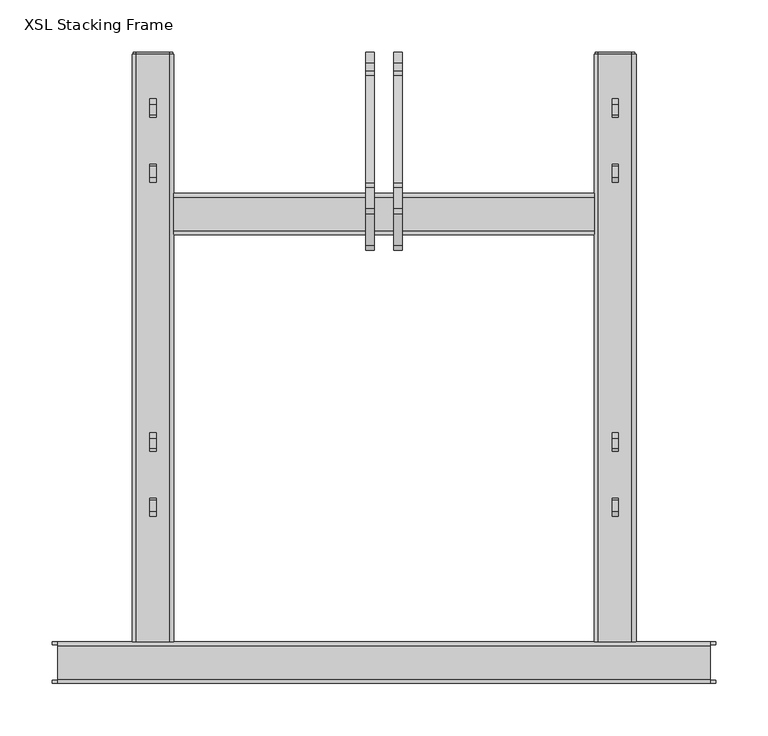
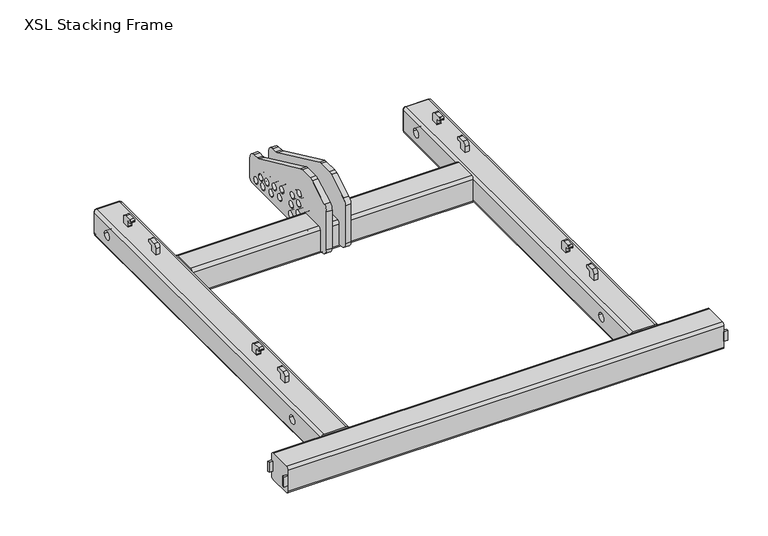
"""IFC4 building model written with IfcOpenShell, lengths in millimetres: proxy geometry, d&b SL-Series XSL Stacking Frame : XSL Stacking Frame."""

from ifc_helpers import new_model, si_unit, point, frame, frame_2d, origin, place, context, project, spatial, polyline, circle_curve, trimmed, segment, composite_curve, outline, extrude, source, transform, mapped, element, save
from ifc_brep_helpers import plane_surface, cylinder_surface, revolved_surface, advanced_brep


def xsl_stacking_frame_c5b48331(model_context):
    return source(origin(), model_context, "Body", "SolidModel", [
        extrude(outline(polyline([(312.5, 17.0), (312.5, 20.0), (318.0, 20.0), (318.0, 17.0), (312.5, 17.0)])), frame((0.0, 0.0, 22.5), z_axis=(0.0, 0.0, 1.0), x_axis=(1.0, 0.0, 0.0)), (0.0, 0.0, 1.0), 15.0),
        extrude(outline(polyline([(312.5, -20.0), (312.5, -17.0), (318.0, -17.0), (318.0, -20.0), (312.5, -20.0)])), frame((0.0, 0.0, 22.5), z_axis=(0.0, 0.0, 1.0), x_axis=(1.0, 0.0, 0.0)), (0.0, 0.0, 1.0), 15.0),
        extrude(outline(polyline([(-312.5, 20.0), (-312.5, 17.0), (-318.0, 17.0), (-318.0, 20.0), (-312.5, 20.0)])), frame((0.0, 0.0, 22.5), z_axis=(0.0, 0.0, 1.0), x_axis=(1.0, 0.0, 0.0)), (0.0, 0.0, 1.0), 15.0),
        extrude(outline(polyline([(-312.5, -17.0), (-312.5, -20.0), (-318.0, -20.0), (-318.0, -17.0), (-312.5, -17.0)])), frame((0.0, 0.0, 22.5), z_axis=(0.0, 0.0, 1.0), x_axis=(1.0, 0.0, 0.0)), (0.0, 0.0, 1.0), 15.0),
        extrude(outline(composite_curve([segment(polyline([(14.0, -202.5), (46.0, -202.5)]), True, "CONTINUOUS"), segment(trimmed(circle_curve(frame_2d((46.0, -205.5)), 3.0), [point((46.0, -202.5))], [point((49.0, -205.5))], False, "CARTESIAN"), True, "CONTINUOUS"), segment(polyline([(49.0, -205.5), (49.0, -237.5)]), True, "CONTINUOUS"), segment(trimmed(circle_curve(frame_2d((46.0, -237.5)), 3.0), [point((49.0, -237.5))], [point((46.0, -240.5))], False, "CARTESIAN"), True, "CONTINUOUS"), segment(polyline([(46.0, -240.5), (14.0, -240.5)]), True, "CONTINUOUS"), segment(trimmed(circle_curve(frame_2d((14.0, -237.5)), 3.0), [point((14.0, -240.5))], [point((11.0, -237.5))], False, "CARTESIAN"), True, "CONTINUOUS"), segment(polyline([(11.0, -237.5), (11.0, -205.5)]), True, "CONTINUOUS"), segment(trimmed(circle_curve(frame_2d((14.0, -205.5)), 3.0), [point((11.0, -205.5))], [point((14.0, -202.5))], False, "CARTESIAN"), True, "CONTINUOUS")], self_intersect=False)), frame((0.0, 583.0, 0.0), z_axis=(0.0, 1.0, 0.0), x_axis=(0.0, 0.0, 1.0)), (0.0, 0.0, 1.0), 2.0),
        extrude(outline(composite_curve([segment(trimmed(circle_curve(frame_2d((14.0, 205.5)), 3.0), [point((14.0, 202.5))], [point((11.0, 205.5))], False, "CARTESIAN"), True, "CONTINUOUS"), segment(polyline([(11.0, 205.5), (11.0, 237.5)]), True, "CONTINUOUS"), segment(trimmed(circle_curve(frame_2d((14.0, 237.5)), 3.0), [point((11.0, 237.5))], [point((14.0, 240.5))], False, "CARTESIAN"), True, "CONTINUOUS"), segment(polyline([(14.0, 240.5), (46.0, 240.5)]), True, "CONTINUOUS"), segment(trimmed(circle_curve(frame_2d((46.0, 237.5)), 3.0), [point((46.0, 240.5))], [point((49.0, 237.5))], False, "CARTESIAN"), True, "CONTINUOUS"), segment(polyline([(49.0, 237.5), (49.0, 205.5)]), True, "CONTINUOUS"), segment(trimmed(circle_curve(frame_2d((46.0, 205.5)), 3.0), [point((49.0, 205.5))], [point((46.0, 202.5))], False, "CARTESIAN"), True, "CONTINUOUS"), segment(polyline([(46.0, 202.5), (14.0, 202.5)]), True, "CONTINUOUS")], self_intersect=False)), frame((0.0, 583.0, 0.0), z_axis=(0.0, 1.0, 0.0), x_axis=(0.0, 0.0, 1.0)), (0.0, 0.0, 1.0), 2.0),
        advanced_brep(
        [(-201.5, 20.0, 14.0), (-201.5, 20.0, 46.0), (-205.5, 20.0, 50.0), (-237.5, 20.0, 50.0), (-241.5, 20.0, 46.0), (-241.5, 20.0, 14.0), (-237.5, 20.0, 10.0), (-205.5, 20.0, 10.0), (-201.5, 583.0, 14.0), (-205.5, 583.0, 10.0), (-237.5, 583.0, 10.0), (-241.5, 583.0, 14.0), (-241.5, 583.0, 46.0), (-237.5, 583.0, 50.0), (-205.5, 583.0, 50.0), (-201.5, 583.0, 46.0), (-201.5, 85.8, 30.0), (-201.5, 98.2, 30.0), (-201.5, 545.8, 30.0), (-201.5, 558.2, 30.0), (-241.5, 98.2, 30.0), (-241.5, 85.8, 30.0), (-241.5, 558.2, 30.0), (-241.5, 545.8, 30.0)],
        [
            (0, 1),
            (1, 2, circle_curve(frame((-205.5, 20.0, 46.0), z_axis=(0.0, -1.0, 0.0), x_axis=(-1.0, 0.0, 0.0)), 4.0)),
            (2, 3),
            (3, 4, circle_curve(frame((-237.5, 20.0, 46.0), z_axis=(0.0, -1.0, 0.0), x_axis=(-1.0, 0.0, 0.0)), 4.0)),
            (4, 5),
            (5, 6, circle_curve(frame((-237.5, 20.0, 14.0), z_axis=(0.0, -1.0, 0.0), x_axis=(-1.0, 0.0, 0.0)), 4.0)),
            (6, 7),
            (7, 0, circle_curve(frame((-205.5, 20.0, 14.0), z_axis=(0.0, -1.0, 0.0), x_axis=(-1.0, 0.0, 0.0)), 4.0)),
            (8, 9, circle_curve(frame((-205.5, 583.0, 14.0), z_axis=(0.0, 1.0, 0.0), x_axis=(-1.0, 0.0, 0.0)), 4.0)),
            (9, 10),
            (10, 11, circle_curve(frame((-237.5, 583.0, 14.0), z_axis=(0.0, 1.0, 0.0), x_axis=(-1.0, 0.0, 0.0)), 4.0)),
            (11, 12),
            (12, 13, circle_curve(frame((-237.5, 583.0, 46.0), z_axis=(0.0, 1.0, 0.0), x_axis=(-1.0, 0.0, 0.0)), 4.0)),
            (13, 14),
            (14, 15, circle_curve(frame((-205.5, 583.0, 46.0), z_axis=(0.0, 1.0, 0.0), x_axis=(-1.0, 0.0, 0.0)), 4.0)),
            (15, 8),
            (0, 8),
            (15, 1),
            (16, 17, circle_curve(frame((-201.5, 92.0, 30.0), z_axis=(-1.0, 0.0, 0.0), x_axis=(0.0, -1.0, 0.0)), 6.2)),
            (17, 16, circle_curve(frame((-201.5, 92.0, 30.0), z_axis=(-1.0, 0.0, 0.0), x_axis=(0.0, -1.0, 0.0)), 6.2)),
            (18, 19, circle_curve(frame((-201.5, 552.0, 30.0), z_axis=(-1.0, 0.0, 0.0), x_axis=(0.0, -1.0, 0.0)), 6.2)),
            (19, 18, circle_curve(frame((-201.5, 552.0, 30.0), z_axis=(-1.0, 0.0, 0.0), x_axis=(0.0, -1.0, 0.0)), 6.2)),
            (14, 2),
            (13, 3),
            (12, 4),
            (11, 5),
            (20, 21, circle_curve(frame((-241.5, 92.0, 30.0), z_axis=(1.0, 0.0, 0.0), x_axis=(0.0, -1.0, 0.0)), 6.2)),
            (21, 20, circle_curve(frame((-241.5, 92.0, 30.0), z_axis=(1.0, 0.0, 0.0), x_axis=(0.0, -1.0, 0.0)), 6.2)),
            (22, 23, circle_curve(frame((-241.5, 552.0, 30.0), z_axis=(1.0, 0.0, 0.0), x_axis=(0.0, -1.0, 0.0)), 6.2)),
            (23, 22, circle_curve(frame((-241.5, 552.0, 30.0), z_axis=(1.0, 0.0, 0.0), x_axis=(0.0, -1.0, 0.0)), 6.2)),
            (10, 6),
            (9, 7),
            (20, 17),
            (16, 21),
            (22, 19),
            (18, 23),
        ],
        [
            plane_surface(frame((-201.5, 20.0, 46.0), z_axis=(0.0, -1.0, 0.0), x_axis=(0.0, 0.0, 1.0))),
            plane_surface(frame((-201.5, 583.0, 46.0), z_axis=(0.0, 1.0, 0.0), x_axis=(0.0, 0.0, -1.0))),
            plane_surface(frame((-201.5, 20.0, 14.0), z_axis=(1.0, 0.0, 0.0), x_axis=(0.0, 1.0, 0.0))),
            cylinder_surface(frame((-205.5, 583.0, 46.0), z_axis=(0.0, -1.0, 0.0), x_axis=(-1.0, 0.0, 0.0)), 4.0),
            plane_surface(frame((-205.5, 20.0, 50.0), z_axis=(0.0, 0.0, 1.0), x_axis=(0.0, 1.0, 0.0))),
            cylinder_surface(frame((-237.5, 583.0, 46.0), z_axis=(0.0, -1.0, 0.0), x_axis=(-1.0, 0.0, 0.0)), 4.0),
            plane_surface(frame((-241.5, 20.0, 46.0), z_axis=(-1.0, 0.0, 0.0), x_axis=(0.0, 1.0, 0.0))),
            cylinder_surface(frame((-237.5, 583.0, 14.0), z_axis=(0.0, -1.0, 0.0), x_axis=(-1.0, 0.0, 0.0)), 4.0),
            plane_surface(frame((-237.5, 20.0, 10.0), z_axis=(0.0, 0.0, -1.0), x_axis=(0.0, 1.0, 0.0))),
            cylinder_surface(frame((-205.5, 583.0, 14.0), z_axis=(0.0, -1.0, 0.0), x_axis=(-1.0, 0.0, 0.0)), 4.0),
            revolved_surface(polyline([(-201.5, 85.8, 30.0), (-241.5, 85.8, 30.0)]), (-318.5, 92.0, 30.0), (1.0, 0.0, 0.0)),
            revolved_surface(polyline([(-201.5, 545.8, 30.0), (-241.5, 545.8, 30.0)]), (0.0, 552.0, 30.0), (1.0, 0.0, 0.0)),
        ],
        [
            (0, [[1, 2, 3, 4, 5, 6, 7, 8]]),
            (1, [[9, 10, 11, 12, 13, 14, 15, 16]]),
            (2, [[-1, 17, -16, 18], [19, 20], [21, 22]]),
            (3, [[-2, -18, -15, 23]]),
            (4, [[-3, -23, -14, 24]]),
            (5, [[-4, -24, -13, 25]]),
            (6, [[-5, -25, -12, 26], [27, 28], [29, 30]]),
            (7, [[-6, -26, -11, 31]]),
            (8, [[-7, -31, -10, 32]]),
            (9, [[-8, -32, -9, -17]]),
            (10, [[33, -19, 34, -27]]),
            (10, [[-33, -28, -34, -20]]),
            (11, [[35, -21, 36, -29]]),
            (11, [[-35, -30, -36, -22]]),
        ],
    ),
        advanced_brep(
        [(201.5, 20.0, 14.0), (205.5, 20.0, 10.0), (237.5, 20.0, 10.0), (241.5, 20.0, 14.0), (241.5, 20.0, 46.0), (237.5, 20.0, 50.0), (205.5, 20.0, 50.0), (201.5, 20.0, 46.0), (201.5, 583.0, 14.0), (201.5, 583.0, 46.0), (205.5, 583.0, 50.0), (237.5, 583.0, 50.0), (241.5, 583.0, 46.0), (241.5, 583.0, 14.0), (237.5, 583.0, 10.0), (205.5, 583.0, 10.0), (241.5, 85.8, 30.0), (241.5, 98.2, 30.0), (241.5, 545.8, 30.0), (241.5, 558.2, 30.0), (201.5, 98.2, 30.0), (201.5, 85.8, 30.0), (201.5, 558.2, 30.0), (201.5, 545.8, 30.0)],
        [
            (0, 1, circle_curve(frame((205.5, 20.0, 14.0), z_axis=(0.0, -1.0, 0.0), x_axis=(1.0, 0.0, 0.0)), 4.0)),
            (1, 2),
            (2, 3, circle_curve(frame((237.5, 20.0, 14.0), z_axis=(0.0, -1.0, 0.0), x_axis=(1.0, 0.0, 0.0)), 4.0)),
            (3, 4),
            (4, 5, circle_curve(frame((237.5, 20.0, 46.0), z_axis=(0.0, -1.0, 0.0), x_axis=(1.0, 0.0, 0.0)), 4.0)),
            (5, 6),
            (6, 7, circle_curve(frame((205.5, 20.0, 46.0), z_axis=(0.0, -1.0, 0.0), x_axis=(1.0, 0.0, 0.0)), 4.0)),
            (7, 0),
            (8, 9),
            (9, 10, circle_curve(frame((205.5, 583.0, 46.0), z_axis=(0.0, 1.0, 0.0), x_axis=(1.0, 0.0, 0.0)), 4.0)),
            (10, 11),
            (11, 12, circle_curve(frame((237.5, 583.0, 46.0), z_axis=(0.0, 1.0, 0.0), x_axis=(1.0, 0.0, 0.0)), 4.0)),
            (12, 13),
            (13, 14, circle_curve(frame((237.5, 583.0, 14.0), z_axis=(0.0, 1.0, 0.0), x_axis=(1.0, 0.0, 0.0)), 4.0)),
            (14, 15),
            (15, 8, circle_curve(frame((205.5, 583.0, 14.0), z_axis=(0.0, 1.0, 0.0), x_axis=(1.0, 0.0, 0.0)), 4.0)),
            (0, 8),
            (15, 1),
            (14, 2),
            (13, 3),
            (12, 4),
            (16, 17, circle_curve(frame((241.5, 92.0, 30.0), z_axis=(-1.0, 0.0, 0.0), x_axis=(0.0, -1.0, 0.0)), 6.2)),
            (17, 16, circle_curve(frame((241.5, 92.0, 30.0), z_axis=(-1.0, 0.0, 0.0), x_axis=(0.0, -1.0, 0.0)), 6.2)),
            (18, 19, circle_curve(frame((241.5, 552.0, 30.0), z_axis=(-1.0, 0.0, 0.0), x_axis=(0.0, -1.0, 0.0)), 6.2)),
            (19, 18, circle_curve(frame((241.5, 552.0, 30.0), z_axis=(-1.0, 0.0, 0.0), x_axis=(0.0, -1.0, 0.0)), 6.2)),
            (11, 5),
            (10, 6),
            (9, 7),
            (20, 21, circle_curve(frame((201.5, 92.0, 30.0), z_axis=(1.0, 0.0, 0.0), x_axis=(0.0, -1.0, 0.0)), 6.2)),
            (21, 20, circle_curve(frame((201.5, 92.0, 30.0), z_axis=(1.0, 0.0, 0.0), x_axis=(0.0, -1.0, 0.0)), 6.2)),
            (22, 23, circle_curve(frame((201.5, 552.0, 30.0), z_axis=(1.0, 0.0, 0.0), x_axis=(0.0, -1.0, 0.0)), 6.2)),
            (23, 22, circle_curve(frame((201.5, 552.0, 30.0), z_axis=(1.0, 0.0, 0.0), x_axis=(0.0, -1.0, 0.0)), 6.2)),
            (20, 17),
            (16, 21),
            (22, 19),
            (18, 23),
        ],
        [
            plane_surface(frame((-201.5, 20.0, 46.0), z_axis=(0.0, -1.0, 0.0), x_axis=(0.0, 0.0, 1.0))),
            plane_surface(frame((-201.5, 583.0, 46.0), z_axis=(0.0, 1.0, 0.0), x_axis=(0.0, 0.0, -1.0))),
            cylinder_surface(frame((205.5, 33.9954278, 14.0), z_axis=(0.0, -1.0, 0.0), x_axis=(1.0, 0.0, 0.0)), 4.0),
            plane_surface(frame((205.5, 20.0, 10.0), z_axis=(0.0, 0.0, -1.0), x_axis=(0.0, 1.0, 0.0))),
            cylinder_surface(frame((237.5, 33.9954278, 14.0), z_axis=(0.0, -1.0, 0.0), x_axis=(1.0, 0.0, 0.0)), 4.0),
            plane_surface(frame((241.5, 20.0, 14.0), z_axis=(1.0, 0.0, 0.0), x_axis=(0.0, 1.0, 0.0))),
            cylinder_surface(frame((237.5, 33.9954278, 46.0), z_axis=(0.0, -1.0, 0.0), x_axis=(1.0, 0.0, 0.0)), 4.0),
            plane_surface(frame((237.5, 20.0, 50.0), z_axis=(0.0, 0.0, 1.0), x_axis=(0.0, 1.0, 0.0))),
            cylinder_surface(frame((205.5, 33.9954278, 46.0), z_axis=(0.0, -1.0, 0.0), x_axis=(1.0, 0.0, 0.0)), 4.0),
            plane_surface(frame((201.5, 20.0, 46.0), z_axis=(-1.0, 0.0, 0.0), x_axis=(0.0, 1.0, 0.0))),
            revolved_surface(polyline([(241.5, 85.8, 30.0), (201.5, 85.8, 30.0)]), (-318.5, 92.0, 30.0), (1.0, 0.0, 0.0)),
            revolved_surface(polyline([(241.5, 545.8, 30.0), (201.5, 545.8, 30.0)]), (0.0, 552.0, 30.0), (1.0, 0.0, 0.0)),
        ],
        [
            (0, [[1, 2, 3, 4, 5, 6, 7, 8]]),
            (1, [[9, 10, 11, 12, 13, 14, 15, 16]]),
            (2, [[-1, 17, -16, 18]]),
            (3, [[-2, -18, -15, 19]]),
            (4, [[-3, -19, -14, 20]]),
            (5, [[-4, -20, -13, 21], [22, 23], [24, 25]]),
            (6, [[-5, -21, -12, 26]]),
            (7, [[-6, -26, -11, 27]]),
            (8, [[-7, -27, -10, 28]]),
            (9, [[-8, -28, -9, -17], [29, 30], [31, 32]]),
            (10, [[33, -22, 34, -29]]),
            (10, [[-33, -30, -34, -23]]),
            (11, [[35, -24, 36, -31]]),
            (11, [[-35, -32, -36, -25]]),
        ],
    ),
        extrude(outline(composite_curve([segment(polyline([(524.75, 64.5), (535.25, 64.5)]), True, "CONTINUOUS"), segment(trimmed(circle_curve(frame_2d((535.25, 59.5)), 5.0), [point((535.25, 64.5))], [point((540.25, 59.5))], False, "CARTESIAN"), True, "CONTINUOUS"), segment(polyline([(540.25, 59.5), (540.25, 50.0), (529.5728757, 50.0)]), True, "CONTINUOUS"), segment(trimmed(circle_curve(frame_2d((528.25, 51.5)), 2.0), [point((529.5728757, 50.0))], [point((530.25, 51.5))], True, "CARTESIAN"), True, "CONTINUOUS"), segment(polyline([(530.25, 51.5), (530.25, 57.5)]), True, "CONTINUOUS"), segment(trimmed(circle_curve(frame_2d((528.25, 57.5)), 2.0), [point((530.25, 57.5))], [point((528.25, 59.5))], True, "CARTESIAN"), True, "CONTINUOUS"), segment(polyline([(528.25, 59.5), (524.75, 59.5)]), True, "CONTINUOUS"), segment(trimmed(circle_curve(frame_2d((524.75, 61.5)), 2.0), [point((524.75, 59.5))], [point((522.75, 61.5))], False, "CARTESIAN"), True, "CONTINUOUS"), segment(polyline([(522.75, 61.5), (522.75, 62.5)]), True, "CONTINUOUS"), segment(trimmed(circle_curve(frame_2d((524.75, 62.5)), 2.0), [point((522.75, 62.5))], [point((524.75, 64.5))], False, "CARTESIAN"), True, "CONTINUOUS")], self_intersect=False)), frame((218.5, 0.0, 0.0), z_axis=(1.0, 0.0, 0.0), x_axis=(0.0, 1.0, 0.0)), (0.0, 0.0, 1.0), 6.0),
        extrude(outline(composite_curve([segment(trimmed(circle_curve(frame_2d((475.75, 62.5)), 2.0), [point((475.75, 64.5))], [point((477.75, 62.5))], False, "CARTESIAN"), True, "CONTINUOUS"), segment(polyline([(477.75, 62.5), (477.75, 61.5)]), True, "CONTINUOUS"), segment(trimmed(circle_curve(frame_2d((475.75, 61.5)), 2.0), [point((477.75, 61.5))], [point((475.75, 59.5))], False, "CARTESIAN"), True, "CONTINUOUS"), segment(polyline([(475.75, 59.5), (472.25, 59.5)]), True, "CONTINUOUS"), segment(trimmed(circle_curve(frame_2d((472.25, 57.5)), 2.0), [point((472.25, 59.5))], [point((470.25, 57.5))], True, "CARTESIAN"), True, "CONTINUOUS"), segment(polyline([(470.25, 57.5), (470.25, 51.5)]), True, "CONTINUOUS"), segment(trimmed(circle_curve(frame_2d((472.25, 51.5)), 2.0), [point((470.25, 51.5))], [point((470.9271243, 50.0))], True, "CARTESIAN"), True, "CONTINUOUS"), segment(polyline([(470.9271243, 50.0), (460.25, 50.0), (460.25, 59.5)]), True, "CONTINUOUS"), segment(trimmed(circle_curve(frame_2d((465.25, 59.5)), 5.0), [point((460.25, 59.5))], [point((465.25, 64.5))], False, "CARTESIAN"), True, "CONTINUOUS"), segment(polyline([(465.25, 64.5), (475.75, 64.5)]), True, "CONTINUOUS")], self_intersect=False)), frame((218.5, 0.0, 0.0), z_axis=(1.0, 0.0, 0.0), x_axis=(0.0, 1.0, 0.0)), (0.0, 0.0, 1.0), 6.0),
        extrude(outline(composite_curve([segment(polyline([(204.75, 64.5), (215.25, 64.5)]), True, "CONTINUOUS"), segment(trimmed(circle_curve(frame_2d((215.25, 59.5)), 5.0), [point((215.25, 64.5))], [point((220.25, 59.5))], False, "CARTESIAN"), True, "CONTINUOUS"), segment(polyline([(220.25, 59.5), (220.25, 50.0), (209.5728757, 50.0)]), True, "CONTINUOUS"), segment(trimmed(circle_curve(frame_2d((208.25, 51.5)), 2.0), [point((209.5728757, 50.0))], [point((210.25, 51.5))], True, "CARTESIAN"), True, "CONTINUOUS"), segment(polyline([(210.25, 51.5), (210.25, 57.5)]), True, "CONTINUOUS"), segment(trimmed(circle_curve(frame_2d((208.25, 57.5)), 2.0), [point((210.25, 57.5))], [point((208.25, 59.5))], True, "CARTESIAN"), True, "CONTINUOUS"), segment(polyline([(208.25, 59.5), (204.75, 59.5)]), True, "CONTINUOUS"), segment(trimmed(circle_curve(frame_2d((204.75, 61.5)), 2.0), [point((204.75, 59.5))], [point((202.75, 61.5))], False, "CARTESIAN"), True, "CONTINUOUS"), segment(polyline([(202.75, 61.5), (202.75, 62.5)]), True, "CONTINUOUS"), segment(trimmed(circle_curve(frame_2d((204.75, 62.5)), 2.0), [point((202.75, 62.5))], [point((204.75, 64.5))], False, "CARTESIAN"), True, "CONTINUOUS")], self_intersect=False)), frame((218.5, 0.0, 0.0), z_axis=(1.0, 0.0, 0.0), x_axis=(0.0, 1.0, 0.0)), (0.0, 0.0, 1.0), 6.0),
        extrude(outline(composite_curve([segment(trimmed(circle_curve(frame_2d((155.75, 62.5)), 2.0), [point((155.75, 64.5))], [point((157.75, 62.5))], False, "CARTESIAN"), True, "CONTINUOUS"), segment(polyline([(157.75, 62.5), (157.75, 61.5)]), True, "CONTINUOUS"), segment(trimmed(circle_curve(frame_2d((155.75, 61.5)), 2.0), [point((157.75, 61.5))], [point((155.75, 59.5))], False, "CARTESIAN"), True, "CONTINUOUS"), segment(polyline([(155.75, 59.5), (152.25, 59.5)]), True, "CONTINUOUS"), segment(trimmed(circle_curve(frame_2d((152.25, 57.5)), 2.0), [point((152.25, 59.5))], [point((150.25, 57.5))], True, "CARTESIAN"), True, "CONTINUOUS"), segment(polyline([(150.25, 57.5), (150.25, 51.5)]), True, "CONTINUOUS"), segment(trimmed(circle_curve(frame_2d((152.25, 51.5)), 2.0), [point((150.25, 51.5))], [point((150.9271243, 50.0))], True, "CARTESIAN"), True, "CONTINUOUS"), segment(polyline([(150.9271243, 50.0), (140.25, 50.0), (140.25, 59.5)]), True, "CONTINUOUS"), segment(trimmed(circle_curve(frame_2d((145.25, 59.5)), 5.0), [point((140.25, 59.5))], [point((145.25, 64.5))], False, "CARTESIAN"), True, "CONTINUOUS"), segment(polyline([(145.25, 64.5), (155.75, 64.5)]), True, "CONTINUOUS")], self_intersect=False)), frame((218.5, 0.0, 0.0), z_axis=(1.0, 0.0, 0.0), x_axis=(0.0, 1.0, 0.0)), (0.0, 0.0, 1.0), 6.0),
        extrude(outline(composite_curve([segment(polyline([(524.75, 64.5), (535.25, 64.5)]), True, "CONTINUOUS"), segment(trimmed(circle_curve(frame_2d((535.25, 59.5)), 5.0), [point((535.25, 64.5))], [point((540.25, 59.5))], False, "CARTESIAN"), True, "CONTINUOUS"), segment(polyline([(540.25, 59.5), (540.25, 50.0), (529.5728757, 50.0)]), True, "CONTINUOUS"), segment(trimmed(circle_curve(frame_2d((528.25, 51.5)), 2.0), [point((529.5728757, 50.0))], [point((530.25, 51.5))], True, "CARTESIAN"), True, "CONTINUOUS"), segment(polyline([(530.25, 51.5), (530.25, 57.5)]), True, "CONTINUOUS"), segment(trimmed(circle_curve(frame_2d((528.25, 57.5)), 2.0), [point((530.25, 57.5))], [point((528.25, 59.5))], True, "CARTESIAN"), True, "CONTINUOUS"), segment(polyline([(528.25, 59.5), (524.75, 59.5)]), True, "CONTINUOUS"), segment(trimmed(circle_curve(frame_2d((524.75, 61.5)), 2.0), [point((524.75, 59.5))], [point((522.75, 61.5))], False, "CARTESIAN"), True, "CONTINUOUS"), segment(polyline([(522.75, 61.5), (522.75, 62.5)]), True, "CONTINUOUS"), segment(trimmed(circle_curve(frame_2d((524.75, 62.5)), 2.0), [point((522.75, 62.5))], [point((524.75, 64.5))], False, "CARTESIAN"), True, "CONTINUOUS")], self_intersect=False)), frame((-224.5, 0.0, 0.0), z_axis=(1.0, 0.0, 0.0), x_axis=(0.0, 1.0, 0.0)), (0.0, 0.0, 1.0), 6.0),
        extrude(outline(composite_curve([segment(trimmed(circle_curve(frame_2d((475.75, 62.5)), 2.0), [point((475.75, 64.5))], [point((477.75, 62.5))], False, "CARTESIAN"), True, "CONTINUOUS"), segment(polyline([(477.75, 62.5), (477.75, 61.5)]), True, "CONTINUOUS"), segment(trimmed(circle_curve(frame_2d((475.75, 61.5)), 2.0), [point((477.75, 61.5))], [point((475.75, 59.5))], False, "CARTESIAN"), True, "CONTINUOUS"), segment(polyline([(475.75, 59.5), (472.25, 59.5)]), True, "CONTINUOUS"), segment(trimmed(circle_curve(frame_2d((472.25, 57.5)), 2.0), [point((472.25, 59.5))], [point((470.25, 57.5))], True, "CARTESIAN"), True, "CONTINUOUS"), segment(polyline([(470.25, 57.5), (470.25, 51.5)]), True, "CONTINUOUS"), segment(trimmed(circle_curve(frame_2d((472.25, 51.5)), 2.0), [point((470.25, 51.5))], [point((470.9271243, 50.0))], True, "CARTESIAN"), True, "CONTINUOUS"), segment(polyline([(470.9271243, 50.0), (460.25, 50.0), (460.25, 59.5)]), True, "CONTINUOUS"), segment(trimmed(circle_curve(frame_2d((465.25, 59.5)), 5.0), [point((460.25, 59.5))], [point((465.25, 64.5))], False, "CARTESIAN"), True, "CONTINUOUS"), segment(polyline([(465.25, 64.5), (475.75, 64.5)]), True, "CONTINUOUS")], self_intersect=False)), frame((-224.5, 0.0, 0.0), z_axis=(1.0, 0.0, 0.0), x_axis=(0.0, 1.0, 0.0)), (0.0, 0.0, 1.0), 6.0),
        extrude(outline(composite_curve([segment(polyline([(204.75, 64.5), (215.25, 64.5)]), True, "CONTINUOUS"), segment(trimmed(circle_curve(frame_2d((215.25, 59.5)), 5.0), [point((215.25, 64.5))], [point((220.25, 59.5))], False, "CARTESIAN"), True, "CONTINUOUS"), segment(polyline([(220.25, 59.5), (220.25, 50.0), (209.5728757, 50.0)]), True, "CONTINUOUS"), segment(trimmed(circle_curve(frame_2d((208.25, 51.5)), 2.0), [point((209.5728757, 50.0))], [point((210.25, 51.5))], True, "CARTESIAN"), True, "CONTINUOUS"), segment(polyline([(210.25, 51.5), (210.25, 57.5)]), True, "CONTINUOUS"), segment(trimmed(circle_curve(frame_2d((208.25, 57.5)), 2.0), [point((210.25, 57.5))], [point((208.25, 59.5))], True, "CARTESIAN"), True, "CONTINUOUS"), segment(polyline([(208.25, 59.5), (204.75, 59.5)]), True, "CONTINUOUS"), segment(trimmed(circle_curve(frame_2d((204.75, 61.5)), 2.0), [point((204.75, 59.5))], [point((202.75, 61.5))], False, "CARTESIAN"), True, "CONTINUOUS"), segment(polyline([(202.75, 61.5), (202.75, 62.5)]), True, "CONTINUOUS"), segment(trimmed(circle_curve(frame_2d((204.75, 62.5)), 2.0), [point((202.75, 62.5))], [point((204.75, 64.5))], False, "CARTESIAN"), True, "CONTINUOUS")], self_intersect=False)), frame((-224.5, 0.0, 0.0), z_axis=(1.0, 0.0, 0.0), x_axis=(0.0, 1.0, 0.0)), (0.0, 0.0, 1.0), 6.0),
        extrude(outline(composite_curve([segment(trimmed(circle_curve(frame_2d((155.75, 62.5)), 2.0), [point((155.75, 64.5))], [point((157.75, 62.5))], False, "CARTESIAN"), True, "CONTINUOUS"), segment(polyline([(157.75, 62.5), (157.75, 61.5)]), True, "CONTINUOUS"), segment(trimmed(circle_curve(frame_2d((155.75, 61.5)), 2.0), [point((157.75, 61.5))], [point((155.75, 59.5))], False, "CARTESIAN"), True, "CONTINUOUS"), segment(polyline([(155.75, 59.5), (152.25, 59.5)]), True, "CONTINUOUS"), segment(trimmed(circle_curve(frame_2d((152.25, 57.5)), 2.0), [point((152.25, 59.5))], [point((150.25, 57.5))], True, "CARTESIAN"), True, "CONTINUOUS"), segment(polyline([(150.25, 57.5), (150.25, 51.5)]), True, "CONTINUOUS"), segment(trimmed(circle_curve(frame_2d((152.25, 51.5)), 2.0), [point((150.25, 51.5))], [point((150.9271243, 50.0))], True, "CARTESIAN"), True, "CONTINUOUS"), segment(polyline([(150.9271243, 50.0), (140.25, 50.0), (140.25, 59.5)]), True, "CONTINUOUS"), segment(trimmed(circle_curve(frame_2d((145.25, 59.5)), 5.0), [point((140.25, 59.5))], [point((145.25, 64.5))], False, "CARTESIAN"), True, "CONTINUOUS"), segment(polyline([(145.25, 64.5), (155.75, 64.5)]), True, "CONTINUOUS")], self_intersect=False)), frame((-224.5, 0.0, 0.0), z_axis=(1.0, 0.0, 0.0), x_axis=(0.0, 1.0, 0.0)), (0.0, 0.0, 1.0), 6.0),
        extrude(outline(composite_curve([segment(polyline([(435.0, 110.0), (455.5577073, 110.0)]), True, "CONTINUOUS"), segment(trimmed(circle_curve(frame_2d((455.5577073, 100.0)), 10.0), [point((455.5577073, 110.0))], [point((459.78389, 109.0630779))], False, "CARTESIAN"), True, "CONTINUOUS"), segment(polyline([(459.78389, 109.0630779), (562.990764, 60.9369221)]), True, "CONTINUOUS"), segment(trimmed(circle_curve(frame_2d((567.2169466, 70.0)), 10.0), [point((562.990764, 60.9369221))], [point((567.2169466, 60.0))], True, "CARTESIAN"), True, "CONTINUOUS"), segment(polyline([(567.2169466, 60.0), (575.0, 60.0)]), True, "CONTINUOUS"), segment(trimmed(circle_curve(frame_2d((575.0, 50.0)), 10.0), [point((575.0, 60.0))], [point((585.0, 50.0))], False, "CARTESIAN"), True, "CONTINUOUS"), segment(polyline([(585.0, 50.0), (585.0, 20.0)]), True, "CONTINUOUS"), segment(trimmed(circle_curve(frame_2d((580.0, 20.0)), 5.0), [point((585.0, 20.0))], [point((580.0, 15.0))], False, "CARTESIAN"), True, "CONTINUOUS"), segment(polyline([(580.0, 15.0), (456.0, 15.0)]), True, "CONTINUOUS"), segment(trimmed(circle_curve(frame_2d((456.0, 20.0)), 5.0), [point((456.0, 15.0))], [point((451.0, 20.0))], False, "CARTESIAN"), True, "CONTINUOUS"), segment(polyline([(451.0, 20.0), (451.0, 45.0)]), True, "CONTINUOUS"), segment(trimmed(circle_curve(frame_2d((446.0, 45.0)), 5.0), [point((451.0, 45.0))], [point((446.0, 50.0))], True, "CARTESIAN"), True, "CONTINUOUS"), segment(polyline([(446.0, 50.0), (413.0, 50.0)]), True, "CONTINUOUS"), segment(trimmed(circle_curve(frame_2d((413.0, 47.0)), 3.0), [point((413.0, 50.0))], [point((410.0, 47.0))], True, "CARTESIAN"), True, "CONTINUOUS"), segment(polyline([(410.0, 47.0), (410.0, 15.0), (405.0, 15.0)]), True, "CONTINUOUS"), segment(trimmed(circle_curve(frame_2d((405.0, 25.0)), 10.0), [point((405.0, 15.0))], [point((395.0, 25.0))], False, "CARTESIAN"), True, "CONTINUOUS"), segment(polyline([(395.0, 25.0), (395.0, 82.6794919)]), True, "CONTINUOUS"), segment(trimmed(circle_curve(frame_2d((405.0, 82.6794919)), 10.0), [point((395.0, 82.6794919))], [point((400.0, 91.339746))], False, "CARTESIAN"), True, "CONTINUOUS"), segment(polyline([(400.0, 91.339746), (430.0, 108.660254)]), True, "CONTINUOUS"), segment(trimmed(circle_curve(frame_2d((435.0, 100.0)), 10.0), [point((430.0, 108.660254))], [point((435.0, 110.0))], False, "CARTESIAN"), True, "CONTINUOUS")], self_intersect=False), holes=[composite_curve([segment(trimmed(circle_curve(frame_2d((462.6389754, 69.2394944)), 5.0), [point((462.6389754, 64.2394944))], [point((462.6389754, 74.2394944))], True, "CARTESIAN"), True, "CONTINUOUS"), segment(trimmed(circle_curve(frame_2d((462.6389754, 69.2394944)), 5.0), [point((462.6389754, 74.2394944))], [point((462.6389754, 64.2394944))], True, "CARTESIAN"), True, "CONTINUOUS")], self_intersect=False), composite_curve([segment(trimmed(circle_curve(frame_2d((464.0844745, 53.2172111)), 5.0), [point((464.0844745, 48.2172111))], [point((464.0844745, 58.2172111))], True, "CARTESIAN"), True, "CONTINUOUS"), segment(trimmed(circle_curve(frame_2d((464.0844745, 53.2172111)), 5.0), [point((464.0844745, 58.2172111))], [point((464.0844745, 48.2172111))], True, "CARTESIAN"), True, "CONTINUOUS")], self_intersect=False), composite_curve([segment(trimmed(circle_curve(frame_2d((465.5299736, 37.1949278)), 5.0), [point((465.5299736, 32.1949278))], [point((465.5299736, 42.1949278))], True, "CARTESIAN"), True, "CONTINUOUS"), segment(trimmed(circle_curve(frame_2d((465.5299736, 37.1949278)), 5.0), [point((465.5299736, 42.1949278))], [point((465.5299736, 32.1949278))], True, "CARTESIAN"), True, "CONTINUOUS")], self_intersect=False), composite_curve([segment(trimmed(circle_curve(frame_2d((484.0131821, 24.5440695)), 5.0), [point((484.0131821, 19.5440695))], [point((484.0131821, 29.5440695))], True, "CARTESIAN"), True, "CONTINUOUS"), segment(trimmed(circle_curve(frame_2d((484.0131821, 24.5440695)), 5.0), [point((484.0131821, 29.5440695))], [point((484.0131821, 19.5440695))], True, "CARTESIAN"), True, "CONTINUOUS")], self_intersect=False), composite_curve([segment(trimmed(circle_curve(frame_2d((479.5590714, 56.3698741)), 5.0), [point((479.5590714, 51.3698741))], [point((479.5590714, 61.3698741))], True, "CARTESIAN"), True, "CONTINUOUS"), segment(trimmed(circle_curve(frame_2d((479.5590714, 56.3698741)), 5.0), [point((479.5590714, 61.3698741))], [point((479.5590714, 51.3698741))], True, "CARTESIAN"), True, "CONTINUOUS")], self_intersect=False), composite_curve([segment(trimmed(circle_curve(frame_2d((511.3866322, 33.7179139)), 5.0), [point((511.3866322, 28.7179139))], [point((511.3866322, 38.7179139))], True, "CARTESIAN"), True, "CONTINUOUS"), segment(trimmed(circle_curve(frame_2d((511.3866322, 33.7179139)), 5.0), [point((511.3866322, 38.7179139))], [point((511.3866322, 28.7179139))], True, "CARTESIAN"), True, "CONTINUOUS")], self_intersect=False), composite_curve([segment(trimmed(circle_curve(frame_2d((524.6112426, 41.6973982)), 5.0), [point((524.6112426, 36.6973982))], [point((524.6112426, 46.6973982))], True, "CARTESIAN"), True, "CONTINUOUS"), segment(trimmed(circle_curve(frame_2d((524.6112426, 41.6973982)), 5.0), [point((524.6112426, 46.6973982))], [point((524.6112426, 36.6973982))], True, "CARTESIAN"), True, "CONTINUOUS")], self_intersect=False), composite_curve([segment(trimmed(circle_curve(frame_2d((532.3897254, 27.6155576)), 5.0), [point((532.3897254, 22.6155576))], [point((532.3897254, 32.6155576))], True, "CARTESIAN"), True, "CONTINUOUS"), segment(trimmed(circle_curve(frame_2d((532.3897254, 27.6155576)), 5.0), [point((532.3897254, 32.6155576))], [point((532.3897254, 22.6155576))], True, "CARTESIAN"), True, "CONTINUOUS")], self_intersect=False), composite_curve([segment(trimmed(circle_curve(frame_2d((552.7934665, 25.0)), 5.0), [point((552.7934665, 20.0))], [point((552.7934665, 30.0))], True, "CARTESIAN"), True, "CONTINUOUS"), segment(trimmed(circle_curve(frame_2d((552.7934665, 25.0)), 5.0), [point((552.7934665, 30.0))], [point((552.7934665, 20.0))], True, "CARTESIAN"), True, "CONTINUOUS")], self_intersect=False), composite_curve([segment(trimmed(circle_curve(frame_2d((569.9805338, 24.259459)), 5.0), [point((569.9805338, 19.259459))], [point((569.9805338, 29.259459))], True, "CARTESIAN"), True, "CONTINUOUS"), segment(trimmed(circle_curve(frame_2d((569.9805338, 24.259459)), 5.0), [point((569.9805338, 29.259459))], [point((569.9805338, 19.259459))], True, "CARTESIAN"), True, "CONTINUOUS")], self_intersect=False), composite_curve([segment(trimmed(circle_curve(frame_2d((558.451496, 35.4792771)), 5.0), [point((558.451496, 30.4792771))], [point((558.451496, 40.4792771))], True, "CARTESIAN"), True, "CONTINUOUS"), segment(trimmed(circle_curve(frame_2d((558.451496, 35.4792771)), 5.0), [point((558.451496, 40.4792771))], [point((558.451496, 30.4792771))], True, "CARTESIAN"), True, "CONTINUOUS")], self_intersect=False), composite_curve([segment(trimmed(circle_curve(frame_2d((543.0021949, 37.7645615)), 5.0), [point((543.0021949, 32.7645615))], [point((543.0021949, 42.7645615))], True, "CARTESIAN"), True, "CONTINUOUS"), segment(trimmed(circle_curve(frame_2d((543.0021949, 37.7645615)), 5.0), [point((543.0021949, 42.7645615))], [point((543.0021949, 32.7645615))], True, "CARTESIAN"), True, "CONTINUOUS")], self_intersect=False), composite_curve([segment(trimmed(circle_curve(frame_2d((482.567683, 40.5663528)), 5.0), [point((482.567683, 35.5663528))], [point((482.567683, 45.5663528))], True, "CARTESIAN"), True, "CONTINUOUS"), segment(trimmed(circle_curve(frame_2d((482.567683, 40.5663528)), 5.0), [point((482.567683, 45.5663528))], [point((482.567683, 35.5663528))], True, "CARTESIAN"), True, "CONTINUOUS")], self_intersect=False), composite_curve([segment(trimmed(circle_curve(frame_2d((505.6036212, 48.7299029)), 5.0), [point((505.6036212, 43.7299029))], [point((505.6036212, 53.7299029))], True, "CARTESIAN"), True, "CONTINUOUS"), segment(trimmed(circle_curve(frame_2d((505.6036212, 48.7299029)), 5.0), [point((505.6036212, 53.7299029))], [point((505.6036212, 43.7299029))], True, "CARTESIAN"), True, "CONTINUOUS")], self_intersect=False)]), frame((-17.5, 0.0, 0.0), z_axis=(1.0, 0.0, 0.0), x_axis=(0.0, 1.0, 0.0)), (0.0, 0.0, 1.0), 8.0),
        extrude(outline(composite_curve([segment(polyline([(435.0, 110.0), (455.5577073, 110.0)]), True, "CONTINUOUS"), segment(trimmed(circle_curve(frame_2d((455.5577073, 100.0)), 10.0), [point((455.5577073, 110.0))], [point((459.78389, 109.0630779))], False, "CARTESIAN"), True, "CONTINUOUS"), segment(polyline([(459.78389, 109.0630779), (562.990764, 60.9369221)]), True, "CONTINUOUS"), segment(trimmed(circle_curve(frame_2d((567.2169466, 70.0)), 10.0), [point((562.990764, 60.9369221))], [point((567.2169466, 60.0))], True, "CARTESIAN"), True, "CONTINUOUS"), segment(polyline([(567.2169466, 60.0), (575.0, 60.0)]), True, "CONTINUOUS"), segment(trimmed(circle_curve(frame_2d((575.0, 50.0)), 10.0), [point((575.0, 60.0))], [point((585.0, 50.0))], False, "CARTESIAN"), True, "CONTINUOUS"), segment(polyline([(585.0, 50.0), (585.0, 20.0)]), True, "CONTINUOUS"), segment(trimmed(circle_curve(frame_2d((580.0, 20.0)), 5.0), [point((585.0, 20.0))], [point((580.0, 15.0))], False, "CARTESIAN"), True, "CONTINUOUS"), segment(polyline([(580.0, 15.0), (456.0, 15.0)]), True, "CONTINUOUS"), segment(trimmed(circle_curve(frame_2d((456.0, 20.0)), 5.0), [point((456.0, 15.0))], [point((451.0, 20.0))], False, "CARTESIAN"), True, "CONTINUOUS"), segment(polyline([(451.0, 20.0), (451.0, 45.0)]), True, "CONTINUOUS"), segment(trimmed(circle_curve(frame_2d((446.0, 45.0)), 5.0), [point((451.0, 45.0))], [point((446.0, 50.0))], True, "CARTESIAN"), True, "CONTINUOUS"), segment(polyline([(446.0, 50.0), (413.0, 50.0)]), True, "CONTINUOUS"), segment(trimmed(circle_curve(frame_2d((413.0, 47.0)), 3.0), [point((413.0, 50.0))], [point((410.0, 47.0))], True, "CARTESIAN"), True, "CONTINUOUS"), segment(polyline([(410.0, 47.0), (410.0, 15.0), (405.0, 15.0)]), True, "CONTINUOUS"), segment(trimmed(circle_curve(frame_2d((405.0, 25.0)), 10.0), [point((405.0, 15.0))], [point((395.0, 25.0))], False, "CARTESIAN"), True, "CONTINUOUS"), segment(polyline([(395.0, 25.0), (395.0, 82.6794919)]), True, "CONTINUOUS"), segment(trimmed(circle_curve(frame_2d((405.0, 82.6794919)), 10.0), [point((395.0, 82.6794919))], [point((400.0, 91.339746))], False, "CARTESIAN"), True, "CONTINUOUS"), segment(polyline([(400.0, 91.339746), (430.0, 108.660254)]), True, "CONTINUOUS"), segment(trimmed(circle_curve(frame_2d((435.0, 100.0)), 10.0), [point((430.0, 108.660254))], [point((435.0, 110.0))], False, "CARTESIAN"), True, "CONTINUOUS")], self_intersect=False), holes=[composite_curve([segment(trimmed(circle_curve(frame_2d((462.6389754, 69.2394944)), 5.0), [point((462.6389754, 64.2394944))], [point((462.6389754, 74.2394944))], True, "CARTESIAN"), True, "CONTINUOUS"), segment(trimmed(circle_curve(frame_2d((462.6389754, 69.2394944)), 5.0), [point((462.6389754, 74.2394944))], [point((462.6389754, 64.2394944))], True, "CARTESIAN"), True, "CONTINUOUS")], self_intersect=False), composite_curve([segment(trimmed(circle_curve(frame_2d((464.0844745, 53.2172111)), 5.0), [point((464.0844745, 48.2172111))], [point((464.0844745, 58.2172111))], True, "CARTESIAN"), True, "CONTINUOUS"), segment(trimmed(circle_curve(frame_2d((464.0844745, 53.2172111)), 5.0), [point((464.0844745, 58.2172111))], [point((464.0844745, 48.2172111))], True, "CARTESIAN"), True, "CONTINUOUS")], self_intersect=False), composite_curve([segment(trimmed(circle_curve(frame_2d((465.5299736, 37.1949278)), 5.0), [point((465.5299736, 32.1949278))], [point((465.5299736, 42.1949278))], True, "CARTESIAN"), True, "CONTINUOUS"), segment(trimmed(circle_curve(frame_2d((465.5299736, 37.1949278)), 5.0), [point((465.5299736, 42.1949278))], [point((465.5299736, 32.1949278))], True, "CARTESIAN"), True, "CONTINUOUS")], self_intersect=False), composite_curve([segment(trimmed(circle_curve(frame_2d((484.0131821, 24.5440695)), 5.0), [point((484.0131821, 19.5440695))], [point((484.0131821, 29.5440695))], True, "CARTESIAN"), True, "CONTINUOUS"), segment(trimmed(circle_curve(frame_2d((484.0131821, 24.5440695)), 5.0), [point((484.0131821, 29.5440695))], [point((484.0131821, 19.5440695))], True, "CARTESIAN"), True, "CONTINUOUS")], self_intersect=False), composite_curve([segment(trimmed(circle_curve(frame_2d((479.5590714, 56.3698741)), 5.0), [point((479.5590714, 51.3698741))], [point((479.5590714, 61.3698741))], True, "CARTESIAN"), True, "CONTINUOUS"), segment(trimmed(circle_curve(frame_2d((479.5590714, 56.3698741)), 5.0), [point((479.5590714, 61.3698741))], [point((479.5590714, 51.3698741))], True, "CARTESIAN"), True, "CONTINUOUS")], self_intersect=False), composite_curve([segment(trimmed(circle_curve(frame_2d((511.3866322, 33.7179139)), 5.0), [point((511.3866322, 28.7179139))], [point((511.3866322, 38.7179139))], True, "CARTESIAN"), True, "CONTINUOUS"), segment(trimmed(circle_curve(frame_2d((511.3866322, 33.7179139)), 5.0), [point((511.3866322, 38.7179139))], [point((511.3866322, 28.7179139))], True, "CARTESIAN"), True, "CONTINUOUS")], self_intersect=False), composite_curve([segment(trimmed(circle_curve(frame_2d((524.6112426, 41.6973982)), 5.0), [point((524.6112426, 36.6973982))], [point((524.6112426, 46.6973982))], True, "CARTESIAN"), True, "CONTINUOUS"), segment(trimmed(circle_curve(frame_2d((524.6112426, 41.6973982)), 5.0), [point((524.6112426, 46.6973982))], [point((524.6112426, 36.6973982))], True, "CARTESIAN"), True, "CONTINUOUS")], self_intersect=False), composite_curve([segment(trimmed(circle_curve(frame_2d((532.3897254, 27.6155576)), 5.0), [point((532.3897254, 22.6155576))], [point((532.3897254, 32.6155576))], True, "CARTESIAN"), True, "CONTINUOUS"), segment(trimmed(circle_curve(frame_2d((532.3897254, 27.6155576)), 5.0), [point((532.3897254, 32.6155576))], [point((532.3897254, 22.6155576))], True, "CARTESIAN"), True, "CONTINUOUS")], self_intersect=False), composite_curve([segment(trimmed(circle_curve(frame_2d((552.7934665, 25.0)), 5.0), [point((552.7934665, 20.0))], [point((552.7934665, 30.0))], True, "CARTESIAN"), True, "CONTINUOUS"), segment(trimmed(circle_curve(frame_2d((552.7934665, 25.0)), 5.0), [point((552.7934665, 30.0))], [point((552.7934665, 20.0))], True, "CARTESIAN"), True, "CONTINUOUS")], self_intersect=False), composite_curve([segment(trimmed(circle_curve(frame_2d((569.9805338, 24.259459)), 5.0), [point((569.9805338, 19.259459))], [point((569.9805338, 29.259459))], True, "CARTESIAN"), True, "CONTINUOUS"), segment(trimmed(circle_curve(frame_2d((569.9805338, 24.259459)), 5.0), [point((569.9805338, 29.259459))], [point((569.9805338, 19.259459))], True, "CARTESIAN"), True, "CONTINUOUS")], self_intersect=False), composite_curve([segment(trimmed(circle_curve(frame_2d((558.451496, 35.4792771)), 5.0), [point((558.451496, 30.4792771))], [point((558.451496, 40.4792771))], True, "CARTESIAN"), True, "CONTINUOUS"), segment(trimmed(circle_curve(frame_2d((558.451496, 35.4792771)), 5.0), [point((558.451496, 40.4792771))], [point((558.451496, 30.4792771))], True, "CARTESIAN"), True, "CONTINUOUS")], self_intersect=False), composite_curve([segment(trimmed(circle_curve(frame_2d((543.0021949, 37.7645615)), 5.0), [point((543.0021949, 32.7645615))], [point((543.0021949, 42.7645615))], True, "CARTESIAN"), True, "CONTINUOUS"), segment(trimmed(circle_curve(frame_2d((543.0021949, 37.7645615)), 5.0), [point((543.0021949, 42.7645615))], [point((543.0021949, 32.7645615))], True, "CARTESIAN"), True, "CONTINUOUS")], self_intersect=False), composite_curve([segment(trimmed(circle_curve(frame_2d((482.567683, 40.5663528)), 5.0), [point((482.567683, 35.5663528))], [point((482.567683, 45.5663528))], True, "CARTESIAN"), True, "CONTINUOUS"), segment(trimmed(circle_curve(frame_2d((482.567683, 40.5663528)), 5.0), [point((482.567683, 45.5663528))], [point((482.567683, 35.5663528))], True, "CARTESIAN"), True, "CONTINUOUS")], self_intersect=False), composite_curve([segment(trimmed(circle_curve(frame_2d((505.6036212, 48.7299029)), 5.0), [point((505.6036212, 43.7299029))], [point((505.6036212, 53.7299029))], True, "CARTESIAN"), True, "CONTINUOUS"), segment(trimmed(circle_curve(frame_2d((505.6036212, 48.7299029)), 5.0), [point((505.6036212, 53.7299029))], [point((505.6036212, 43.7299029))], True, "CARTESIAN"), True, "CONTINUOUS")], self_intersect=False)]), frame((9.5, 0.0, 0.0), z_axis=(1.0, 0.0, 0.0), x_axis=(0.0, 1.0, 0.0)), (0.0, 0.0, 1.0), 8.0),
        extrude(outline(composite_curve([segment(trimmed(circle_curve(frame_2d((446.0, 14.0)), 4.0), [point((450.0, 14.0))], [point((446.0, 10.0))], False, "CARTESIAN"), True, "CONTINUOUS"), segment(polyline([(446.0, 10.0), (414.0, 10.0)]), True, "CONTINUOUS"), segment(trimmed(circle_curve(frame_2d((414.0, 14.0)), 4.0), [point((414.0, 10.0))], [point((410.0, 14.0))], False, "CARTESIAN"), True, "CONTINUOUS"), segment(polyline([(410.0, 14.0), (410.0, 46.0)]), True, "CONTINUOUS"), segment(trimmed(circle_curve(frame_2d((414.0, 46.0)), 4.0), [point((410.0, 46.0))], [point((414.0, 50.0))], False, "CARTESIAN"), True, "CONTINUOUS"), segment(polyline([(414.0, 50.0), (446.0, 50.0)]), True, "CONTINUOUS"), segment(trimmed(circle_curve(frame_2d((446.0, 46.0)), 4.0), [point((446.0, 50.0))], [point((450.0, 46.0))], False, "CARTESIAN"), True, "CONTINUOUS"), segment(polyline([(450.0, 46.0), (450.0, 14.0)]), True, "CONTINUOUS")], self_intersect=False)), frame((-201.5, 0.0, 0.0), z_axis=(1.0, 0.0, 0.0), x_axis=(0.0, 1.0, 0.0)), (0.0, 0.0, 1.0), 403.0),
        advanced_brep(
        [(312.5, 20.0, 46.0), (312.5, 16.0, 50.0), (312.5, -16.0, 50.0), (312.5, -20.0, 46.0), (312.5, -20.0, 37.5), (312.5, -17.0, 37.5), (312.5, -17.0, 22.5), (312.5, -20.0, 22.5), (312.5, -20.0, 14.0), (312.5, -16.0, 10.0), (312.5, 16.0, 10.0), (312.5, 20.0, 14.0), (312.5, 20.0, 22.5), (312.5, 17.0, 22.5), (312.5, 17.0, 37.5), (312.5, 20.0, 37.5), (-312.5, 20.0, 14.0), (-312.5, 16.0, 10.0), (-312.5, -16.0, 10.0), (-312.5, -20.0, 14.0), (-312.5, -20.0, 22.5), (-312.5, -17.0, 22.5), (-312.5, -17.0, 37.5), (-312.5, -20.0, 37.5), (-312.5, -20.0, 46.0), (-312.5, -16.0, 50.0), (-312.5, 16.0, 50.0), (-312.5, 20.0, 46.0), (-312.5, 20.0, 37.5), (-312.5, 17.0, 37.5), (-312.5, 17.0, 22.5), (-312.5, 20.0, 22.5), (-318.0, 20.0, 22.5), (-318.0, 20.0, 37.5), (318.0, 20.0, 37.5), (318.0, 20.0, 22.5), (-318.0, -20.0, 37.5), (-318.0, -20.0, 22.5), (318.0, -20.0, 22.5), (318.0, -20.0, 37.5), (-318.0, 17.0, 37.5), (-318.0, 17.0, 22.5), (-318.0, -17.0, 37.5), (-318.0, -17.0, 22.5), (318.0, 17.0, 37.5), (318.0, 17.0, 22.5), (318.0, -17.0, 37.5), (318.0, -17.0, 22.5)],
        [
            (0, 1, circle_curve(frame((312.5, 16.0, 46.0), z_axis=(1.0, 0.0, 0.0), x_axis=(0.0, -1.0, 0.0)), 4.0)),
            (1, 2),
            (2, 3, circle_curve(frame((312.5, -16.0, 46.0), z_axis=(1.0, 0.0, 0.0), x_axis=(0.0, -1.0, 0.0)), 4.0)),
            (3, 4),
            (4, 5),
            (5, 6),
            (6, 7),
            (7, 8),
            (8, 9, circle_curve(frame((312.5, -16.0, 14.0), z_axis=(1.0, 0.0, 0.0), x_axis=(0.0, -1.0, 0.0)), 4.0)),
            (9, 10),
            (10, 11, circle_curve(frame((312.5, 16.0, 14.0), z_axis=(1.0, 0.0, 0.0), x_axis=(0.0, -1.0, 0.0)), 4.0)),
            (11, 12),
            (12, 13),
            (13, 14),
            (14, 15),
            (15, 0),
            (16, 17, circle_curve(frame((-312.5, 16.0, 14.0), z_axis=(-1.0, 0.0, 0.0), x_axis=(0.0, -1.0, 0.0)), 4.0)),
            (17, 18),
            (18, 19, circle_curve(frame((-312.5, -16.0, 14.0), z_axis=(-1.0, 0.0, 0.0), x_axis=(0.0, -1.0, 0.0)), 4.0)),
            (19, 20),
            (20, 21),
            (21, 22),
            (22, 23),
            (23, 24),
            (24, 25, circle_curve(frame((-312.5, -16.0, 46.0), z_axis=(-1.0, 0.0, 0.0), x_axis=(0.0, -1.0, 0.0)), 4.0)),
            (25, 26),
            (26, 27, circle_curve(frame((-312.5, 16.0, 46.0), z_axis=(-1.0, 0.0, 0.0), x_axis=(0.0, -1.0, 0.0)), 4.0)),
            (27, 28),
            (28, 29),
            (29, 30),
            (30, 31),
            (31, 16),
            (11, 16),
            (31, 32),
            (32, 33),
            (33, 28),
            (27, 0),
            (15, 34),
            (34, 35),
            (35, 12),
            (26, 1),
            (25, 2),
            (24, 3),
            (23, 36),
            (36, 37),
            (37, 20),
            (19, 8),
            (7, 38),
            (38, 39),
            (39, 4),
            (18, 9),
            (17, 10),
            (40, 33),
            (32, 41),
            (41, 40),
            (42, 43),
            (43, 37),
            (36, 42),
            (41, 30),
            (29, 40),
            (22, 42),
            (43, 21),
            (44, 45),
            (45, 35),
            (34, 44),
            (46, 39),
            (38, 47),
            (47, 46),
            (44, 14),
            (13, 45),
            (46, 5),
            (6, 47),
        ],
        [
            plane_surface(frame((312.5, 20.0, 46.0), z_axis=(1.0, 0.0, 0.0), x_axis=(0.0, 0.0, 1.0))),
            plane_surface(frame((-312.5, 20.0, 46.0), z_axis=(-1.0, 0.0, 0.0), x_axis=(0.0, 0.0, -1.0))),
            plane_surface(frame((312.5, 20.0, 14.0), z_axis=(0.0, 1.0, 0.0), x_axis=(-1.0, 0.0, 0.0))),
            cylinder_surface(frame((-312.5, 16.0, 46.0), z_axis=(1.0, 0.0, 0.0), x_axis=(0.0, -1.0, 0.0)), 4.0),
            plane_surface(frame((312.5, 16.0, 50.0), z_axis=(0.0, 0.0, 1.0), x_axis=(-1.0, 0.0, 0.0))),
            cylinder_surface(frame((-312.5, -16.0, 46.0), z_axis=(1.0, 0.0, 0.0), x_axis=(0.0, -1.0, 0.0)), 4.0),
            plane_surface(frame((312.5, -20.0, 46.0), z_axis=(0.0, -1.0, 0.0), x_axis=(-1.0, 0.0, 0.0))),
            cylinder_surface(frame((-312.5, -16.0, 14.0), z_axis=(1.0, 0.0, 0.0), x_axis=(0.0, -1.0, 0.0)), 4.0),
            plane_surface(frame((312.5, -16.0, 10.0), z_axis=(0.0, 0.0, -1.0), x_axis=(-1.0, 0.0, 0.0))),
            cylinder_surface(frame((-312.5, 16.0, 14.0), z_axis=(1.0, 0.0, 0.0), x_axis=(0.0, -1.0, 0.0)), 4.0),
            plane_surface(frame((-318.0, 17.0, 37.5), z_axis=(-1.0, 0.0, 0.0), x_axis=(0.0, 0.0, 1.0))),
            plane_surface(frame((-312.5, 17.0, 37.5), z_axis=(0.0, -1.0, 0.0), x_axis=(-1.0, 0.0, 0.0))),
            plane_surface(frame((-312.5, 17.0, 22.5), z_axis=(0.0, 0.0, -1.0), x_axis=(-1.0, 0.0, 0.0))),
            plane_surface(frame((-312.5, 20.0, 37.5), z_axis=(0.0, 0.0, 1.0), x_axis=(-1.0, 0.0, 0.0))),
            plane_surface(frame((-312.5, -17.0, 37.5), z_axis=(0.0, 0.0, 1.0), x_axis=(-1.0, 0.0, 0.0))),
            plane_surface(frame((-312.5, -20.0, 22.5), z_axis=(0.0, 0.0, -1.0), x_axis=(-1.0, 0.0, 0.0))),
            plane_surface(frame((-312.5, -17.0, 22.5), z_axis=(0.0, 1.0, 0.0), x_axis=(-1.0, 0.0, 0.0))),
            plane_surface(frame((318.0, 20.0, 37.5), z_axis=(1.0, 0.0, 0.0), x_axis=(0.0, -1.0, 0.0))),
            plane_surface(frame((312.5, 17.0, 22.5), z_axis=(0.0, -1.0, 0.0), x_axis=(1.0, 0.0, 0.0))),
            plane_surface(frame((312.5, 20.0, 22.5), z_axis=(0.0, 0.0, -1.0), x_axis=(1.0, 0.0, 0.0))),
            plane_surface(frame((312.5, 17.0, 37.5), z_axis=(0.0, 0.0, 1.0), x_axis=(1.0, 0.0, 0.0))),
            plane_surface(frame((312.5, -20.0, 37.5), z_axis=(0.0, 0.0, 1.0), x_axis=(1.0, 0.0, 0.0))),
            plane_surface(frame((312.5, -17.0, 22.5), z_axis=(0.0, 0.0, -1.0), x_axis=(1.0, 0.0, 0.0))),
            plane_surface(frame((312.5, -17.0, 37.5), z_axis=(0.0, 1.0, 0.0), x_axis=(1.0, 0.0, 0.0))),
        ],
        [
            (0, [[1, 2, 3, 4, 5, 6, 7, 8, 9, 10, 11, 12, 13, 14, 15, 16]]),
            (1, [[17, 18, 19, 20, 21, 22, 23, 24, 25, 26, 27, 28, 29, 30, 31, 32]]),
            (2, [[33, -32, 34, 35, 36, -28, 37, -16, 38, 39, 40, -12]]),
            (3, [[-1, -37, -27, 41]]),
            (4, [[-2, -41, -26, 42]]),
            (5, [[-3, -42, -25, 43]]),
            (6, [[-43, -24, 44, 45, 46, -20, 47, -8, 48, 49, 50, -4]]),
            (7, [[-9, -47, -19, 51]]),
            (8, [[-10, -51, -18, 52]]),
            (9, [[-11, -52, -17, -33]]),
            (10, [[53, -35, 54, 55]]),
            (10, [[56, 57, -45, 58]]),
            (11, [[-55, 59, -30, 60]]),
            (12, [[-54, -34, -31, -59]]),
            (13, [[-53, -60, -29, -36]]),
            (14, [[-58, -44, -23, 61]]),
            (15, [[-57, 62, -21, -46]]),
            (16, [[-56, -61, -22, -62]]),
            (17, [[63, 64, -39, 65]]),
            (17, [[66, -49, 67, 68]]),
            (18, [[-63, 69, -14, 70]]),
            (19, [[-64, -70, -13, -40]]),
            (20, [[-65, -38, -15, -69]]),
            (21, [[-66, 71, -5, -50]]),
            (22, [[-67, -48, -7, 72]]),
            (23, [[-68, -72, -6, -71]]),
        ],
    ),
    ])


if __name__ == "__main__":
    model = new_model("IFC4")
    model_context = context("Model", 3, world=origin())
    ifc_project = project(units=[si_unit("LENGTHUNIT", "METRE", prefix="MILLI")], contexts=[model_context])
    site = spatial("IfcSite", under=ifc_project)
    building = spatial("IfcBuilding", under=site)
    placement = place(None, origin())
    xsl_stacking_frame_shape = xsl_stacking_frame_c5b48331(model_context)
    element("IfcBuildingElementProxy", 1, Name="d&b SL-Series XSL Stacking Frame : XSL Stacking Frame", ObjectType="d&b SL-Series XSL Stacking Frame : XSL Stacking Frame", at=placement, inside=building, context=model_context, shape_type="MappedRepresentation", body=[
        mapped(xsl_stacking_frame_shape, transform((0.0, 0.0, 0.0), x_axis=(1.0, 0.0, 0.0), y_axis=(0.0, 1.0, 0.0), z_axis=(0.0, 0.0, 1.0))),
    ])
    save(model, "model.ifc")
